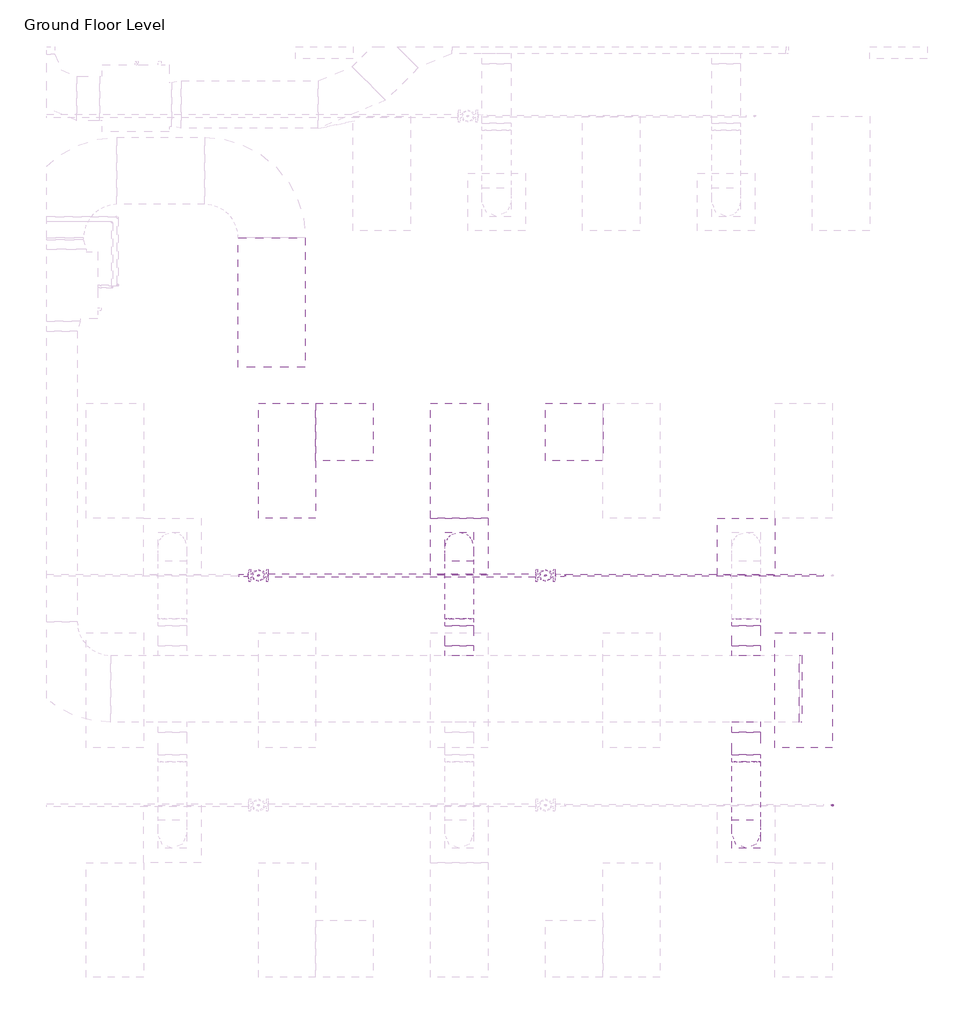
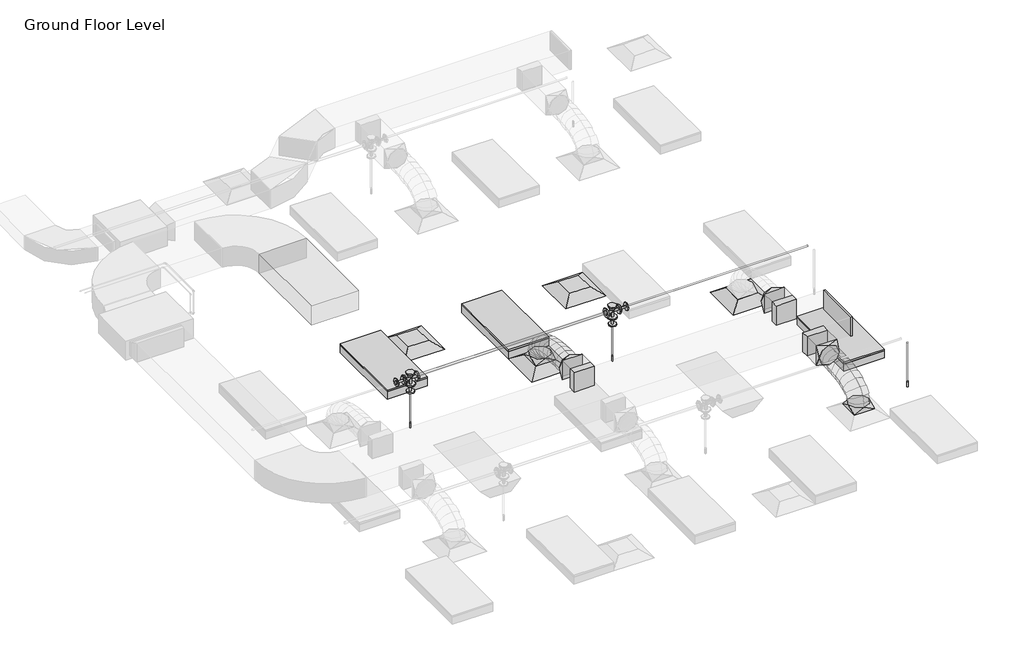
# One storey, part 32 of 68: 9 duct fittings, 6 duct segments, 6 pipe fittings, 5 pipe segments, 4 air terminals, 3 fire suppression terminals, 3 light fixtures.
"""IFC4 building model written with IfcOpenShell, lengths in millimetres."""

from ifc_helpers import new_model, si_unit, point, frame, frame_2d, origin, place, context, project, spatial, polyline, circle_curve, ellipse_curve, trimmed, segment, composite_curve, outline, extrude, transform, mapped, element, save
from ifc_brep_helpers import plane_surface, cylinder_surface, advanced_brep
from components import m_return_diffuser_600_x_600_face_300_x_300_connection_ff221211, m_rectangular_endcap_standard_7d4e98f4, m_rectangular_takeoff_standard_cb0ccb98, m_rectangular_takeoff_standard_2be5eba1, m_rectangular_to_round_transition_angle_45_degree_641efff0, m_sprinkler_dry_pendent_hosted_15_mm_dry_pendent_9bda8e11, m_troffer_light_parabolic_rectangular1_0600x1200mm_4_lamp_86473d4a, m_reducer_flanged_cs_class_150_standard_ccf252ad, m_tee_round_base_flanged_cs_class_150_standard_7e5987a1

model = new_model("IFC4")

# Units and contexts
model_context = context("Model", 3, world=origin())
ifc_project = project(units=[si_unit("LENGTHUNIT", "METRE", prefix="MILLI")], contexts=[model_context])

# Site, building, storey
site = spatial("IfcSite", under=ifc_project)
building = spatial("IfcBuilding", under=site)
storey = spatial("IfcBuildingStorey", under=building, Name="Ground Floor Level", Elevation=900.0)

# Air terminals
placement = place(None, origin())
m_return_diffuser_600_x_600_face_300_x_300_connection_shape = m_return_diffuser_600_x_600_face_300_x_300_connection_ff221211(model_context)
element("IfcAirTerminal", 1, ObjectType="M_Return Diffuser : 600 x 600 Face 300 x 300 Connection", at=placement, inside=storey, context=model_context, shape_type="MappedRepresentation", body=[
    mapped(m_return_diffuser_600_x_600_face_300_x_300_connection_shape, transform((9152.7672395, -9464.7846466, 3650.0), x_axis=(1.0, 0.0, 0.0), y_axis=(0.0, 1.0, 0.0), z_axis=(0.0, 0.0, 1.0))),
])
element("IfcAirTerminal", 2, ObjectType="M_Return Diffuser : 600 x 600 Face 300 x 300 Connection", at=placement, inside=storey, context=model_context, shape_type="MappedRepresentation", body=[
    mapped(m_return_diffuser_600_x_600_face_300_x_300_connection_shape, transform((11552.7672395, -9464.7846466, 3650.0), x_axis=(1.0, 0.0, 0.0), y_axis=(0.0, 1.0, 0.0), z_axis=(0.0, 0.0, 1.0))),
])
element("IfcAirTerminal", 3, ObjectType="M_Supply Diffuser : 600 x 600 Face 300 x 300 Connection", at=placement, inside=storey, context=model_context, shape_type="MappedRepresentation", body=[
    mapped(m_return_diffuser_600_x_600_face_300_x_300_connection_shape, transform((10352.7672395, -10664.7846466, 3650.0), x_axis=(1.0, 0.0, 0.0), y_axis=(0.0, 1.0, 0.0), z_axis=(0.0, 0.0, 1.0))),
])
element("IfcAirTerminal", 4, ObjectType="M_Supply Diffuser : 600 x 600 Face 300 x 300 Connection", at=placement, inside=storey, context=model_context, shape_type="MappedRepresentation", body=[
    mapped(m_return_diffuser_600_x_600_face_300_x_300_connection_shape, transform((13352.7672395, -10664.7846466, 3650.0), x_axis=(1.0, 0.0, 0.0), y_axis=(0.0, 1.0, 0.0), z_axis=(0.0, 0.0, 1.0))),
])

# Duct fittings
m_rectangular_endcap_standard_shape = m_rectangular_endcap_standard_7d4e98f4(model_context)
element("IfcDuctFitting", 5, ObjectType="M_Rectangular Endcap : Standard", at=placement, inside=storey, context=model_context, shape_type="MappedRepresentation", body=[
    mapped(m_rectangular_endcap_standard_shape, transform((13909.9139492, -12149.3358641, 4099.9875), x_axis=(1.0, 0.0, 0.0), y_axis=(0.0, 1.0, 0.0), z_axis=(0.0, 0.0, 1.0))),
])
m_rectangular_takeoff_standard_shape = m_rectangular_takeoff_standard_cb0ccb98(model_context)
element("IfcDuctFitting", 6, ObjectType="M_Rectangular Takeoff : Standard", at=placement, inside=storey, context=model_context, shape_type="MappedRepresentation", body=[
    mapped(m_rectangular_takeoff_standard_shape, transform((13352.7672395, -11799.3358641, 4099.9875), x_axis=(0.0, 1.0, 0.0), y_axis=(1.0, 0.0, 0.0), z_axis=(0.0, 0.0, -1.0))),
])
element("IfcDuctFitting", 7, ObjectType="M_Rectangular Takeoff : Standard", at=placement, inside=storey, context=model_context, shape_type="MappedRepresentation", body=[
    mapped(m_rectangular_takeoff_standard_shape, transform((10352.7672395, -11799.3358641, 4099.9875), x_axis=(0.0, 1.0, 0.0), y_axis=(1.0, 0.0, 0.0), z_axis=(0.0, 0.0, -1.0))),
])
m_rectangular_takeoff_standard_2_shape = m_rectangular_takeoff_standard_2be5eba1(model_context)
element("IfcDuctFitting", 8, ObjectType="M_Rectangular Takeoff : Standard", at=placement, inside=storey, context=model_context, shape_type="MappedRepresentation", body=[
    mapped(m_rectangular_takeoff_standard_2_shape, transform((13352.7672395, -12499.3358641, 4099.9875), x_axis=(0.0, -1.0, 0.0), y_axis=(-1.0, 0.0, 0.0), z_axis=(0.0, 0.0, -1.0))),
])
m_rectangular_to_round_transition_angle_45_degree_shape = m_rectangular_to_round_transition_angle_45_degree_641efff0(model_context)
element("IfcDuctFitting", 9, ObjectType="M_Rectangular to Round Transition - Angle : 45 Degree", at=placement, inside=storey, context=model_context, shape_type="MappedRepresentation", body=[
    mapped(m_rectangular_to_round_transition_angle_45_degree_shape, transform((10352.7672395, -10664.7846466, 3751.6), x_axis=(0.0, 0.0, 1.0), y_axis=(-1.0, 0.0, 0.0), z_axis=(0.0, -1.0, 0.0))),
])
element("IfcDuctFitting", 10, ObjectType="M_Rectangular to Round Transition - Angle : 45 Degree", at=placement, inside=storey, context=model_context, shape_type="MappedRepresentation", body=[
    mapped(m_rectangular_to_round_transition_angle_45_degree_shape, transform((10352.7672395, -11492.1330779, 4099.9875), x_axis=(0.0, 1.0, 0.0), y_axis=(-1.0, 0.0, 0.0), z_axis=(0.0, 0.0, 1.0))),
])
element("IfcDuctFitting", 11, ObjectType="M_Rectangular to Round Transition - Angle : 45 Degree", at=placement, inside=storey, context=model_context, shape_type="MappedRepresentation", body=[
    mapped(m_rectangular_to_round_transition_angle_45_degree_shape, transform((13352.7672395, -11492.1330779, 4099.9875), x_axis=(0.0, 1.0, 0.0), y_axis=(-1.0, 0.0, 0.0), z_axis=(0.0, 0.0, 1.0))),
])
element("IfcDuctFitting", 12, ObjectType="M_Rectangular to Round Transition - Angle : 45 Degree", at=placement, inside=storey, context=model_context, shape_type="MappedRepresentation", body=[
    mapped(m_rectangular_to_round_transition_angle_45_degree_shape, transform((13352.7672395, -13664.7846466, 3751.6), x_axis=(0.0, 0.0, 1.0), y_axis=(-1.0, 0.0, 0.0), z_axis=(0.0, -1.0, 0.0))),
])
element("IfcDuctFitting", 13, ObjectType="M_Rectangular to Round Transition - Angle : 45 Degree", at=placement, inside=storey, context=model_context, shape_type="MappedRepresentation", body=[
    mapped(m_rectangular_to_round_transition_angle_45_degree_shape, transform((13352.7672395, -12837.4362153, 4099.9875), x_axis=(0.0, -1.0, 0.0), y_axis=(1.0, 0.0, 0.0), z_axis=(0.0, 0.0, 1.0))),
])

# Duct segments
element("IfcDuctSegment", 14, ObjectType="Flex - Round", at=placement, inside=storey, context=model_context, shape_type="AdvancedBrep", body=[
    advanced_brep(
    [(10502.7672395, -10664.7846466, 3826.6), (10352.7672395, -10814.7846466, 3826.6), (10202.7672395, -10664.7846466, 3826.6), (10352.7672395, -10514.7846466, 3826.6), (10502.7672395, -10664.7846466, 3857.9382361), (10352.7672395, -10814.7846466, 3832.2943726), (10202.7672395, -10664.7846466, 3857.9382361), (10352.7672395, -10514.7846466, 3883.5820996), (10502.7672395, -10681.8009258, 3906.2508008), (10352.7672395, -10815.5381175, 3834.4336246), (10202.7672395, -10681.8009258, 3906.2508008), (10352.7672395, -10548.0637341, 3978.0679769), (10502.7672395, -10728.9857498, 3968.710741), (10352.7672395, -10833.1895095, 3857.7992917), (10202.7672395, -10728.9857498, 3968.710741), (10352.7672395, -10624.78199, 4079.6221903), (10502.7672395, -10800.5430984, 4016.0679312), (10352.7672395, -10869.4737825, 3881.8124958), (10202.7672395, -10800.5430984, 4016.0679312), (10352.7672395, -10731.6124143, 4150.3233665), (10502.7672395, -10890.6769515, 4050.4104815), (10352.7672395, -10934.2340294, 3906.4872652), (10202.7672395, -10890.6769515, 4050.4104815), (10352.7672395, -10847.1198737, 4194.3336978), (10502.7672395, -10993.591289, 4073.8265025), (10352.7672395, -11020.1487195, 3926.0353694), (10202.7672395, -10993.591289, 4073.8265025), (10352.7672395, -10967.0338584, 4221.6176356), (10502.7672395, -11103.4900905, 4088.4041045), (10352.7672395, -11118.6379564, 3939.0995418), (10202.7672395, -11103.4900905, 4088.4041045), (10352.7672395, -11088.3422246, 4237.7086671), (10502.7672395, -11214.5773359, 4096.2313978), (10352.7672395, -11222.0803018, 3946.3881695), (10202.7672395, -11214.5773359, 4096.2313978), (10352.7672395, -11207.0743701, 4246.074626), (10502.7672395, -11321.0570051, 4099.3964928), (10352.7672395, -11323.7471101, 3949.4102029), (10202.7672395, -11321.0570051, 4099.3964928), (10352.7672395, -11318.3669002, 4249.3827828), (10502.7672395, -11417.1330779, 4099.9875), (10352.7672395, -11416.2103779, 4249.9846621), (10202.7672395, -11417.1330779, 4099.9875), (10352.7672395, -11418.0557779, 3949.9903379)],
    [
        (0, 1, circle_curve(frame((10352.7672395, -10664.7846466, 3826.6), z_axis=(0.0, 0.0, -1.0), x_axis=(1.0, 0.0, 0.0)), 150.0)),
        (1, 2, circle_curve(frame((10352.7672395, -10664.7846466, 3826.6), z_axis=(0.0, 0.0, -1.0), x_axis=(1.0, 0.0, 0.0)), 150.0)),
        (2, 3, circle_curve(frame((10352.7672395, -10664.7846466, 3826.6), z_axis=(0.0, 0.0, -1.0), x_axis=(1.0, 0.0, 0.0)), 150.0)),
        (3, 0, circle_curve(frame((10352.7672395, -10664.7846466, 3826.6), z_axis=(0.0, 0.0, -1.0), x_axis=(1.0, 0.0, 0.0)), 150.0)),
        (0, 4),
        (4, 5, ellipse_curve(frame((10352.7672395, -10664.7846466, 3857.9382361), z_axis=(0.0, 0.16851424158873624, -0.9856992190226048), x_axis=(0.0, -0.9856992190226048, -0.16851424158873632)), 152.1762391, 150.0)),
        (5, 1),
        (5, 6, ellipse_curve(frame((10352.7672395, -10664.7846466, 3857.9382361), z_axis=(0.0, 0.16851424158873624, -0.9856992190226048), x_axis=(0.0, -0.9856992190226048, -0.16851424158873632)), 152.1762391, 150.0)),
        (6, 2),
        (6, 7, ellipse_curve(frame((10352.7672395, -10664.7846466, 3857.9382361), z_axis=(0.0, 0.16851424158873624, -0.9856992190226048), x_axis=(0.0, -0.9856992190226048, -0.16851424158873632)), 152.1762391, 150.0)),
        (7, 3),
        (7, 4, ellipse_curve(frame((10352.7672395, -10664.7846466, 3857.9382361), z_axis=(0.0, 0.16851424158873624, -0.9856992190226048), x_axis=(0.0, -0.9856992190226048, -0.16851424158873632)), 152.1762391, 150.0)),
        (4, 8),
        (8, 9, ellipse_curve(frame((10352.7672395, -10681.8009258, 3906.2508008), z_axis=(0.0, 0.4731028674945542, -0.8810071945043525), x_axis=(0.0, -0.8810071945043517, -0.47310286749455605)), 151.80034, 150.0)),
        (9, 5),
        (9, 10, ellipse_curve(frame((10352.7672395, -10681.8009258, 3906.2508008), z_axis=(0.0, 0.4731028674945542, -0.8810071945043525), x_axis=(0.0, -0.8810071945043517, -0.47310286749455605)), 151.80034, 150.0)),
        (10, 6),
        (10, 11, ellipse_curve(frame((10352.7672395, -10681.8009258, 3906.2508008), z_axis=(0.0, 0.4731028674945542, -0.8810071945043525), x_axis=(0.0, -0.8810071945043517, -0.47310286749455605)), 151.80034, 150.0)),
        (11, 7),
        (11, 8, ellipse_curve(frame((10352.7672395, -10681.8009258, 3906.2508008), z_axis=(0.0, 0.4731028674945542, -0.8810071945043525), x_axis=(0.0, -0.8810071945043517, -0.47310286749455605)), 151.80034, 150.0)),
        (8, 12),
        (12, 13, ellipse_curve(frame((10352.7672395, -10728.9857498, 3968.710741), z_axis=(0.0, 0.7288014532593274, -0.6847250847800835), x_axis=(0.0, -0.6847250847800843, -0.7288014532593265)), 152.1833536, 150.0)),
        (13, 9),
        (13, 14, ellipse_curve(frame((10352.7672395, -10728.9857498, 3968.710741), z_axis=(0.0, 0.7288014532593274, -0.6847250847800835), x_axis=(0.0, -0.6847250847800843, -0.7288014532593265)), 152.1833536, 150.0)),
        (14, 10),
        (14, 15, ellipse_curve(frame((10352.7672395, -10728.9857498, 3968.710741), z_axis=(0.0, 0.7288014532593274, -0.6847250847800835), x_axis=(0.0, -0.6847250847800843, -0.7288014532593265)), 152.1833536, 150.0)),
        (15, 11),
        (15, 12, ellipse_curve(frame((10352.7672395, -10728.9857498, 3968.710741), z_axis=(0.0, 0.7288014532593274, -0.6847250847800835), x_axis=(0.0, -0.6847250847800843, -0.7288014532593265)), 152.1833536, 150.0)),
        (12, 16),
        (16, 17, ellipse_curve(frame((10352.7672395, -10800.5430984, 4016.0679312), z_axis=(0.0, 0.8895974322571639, -0.45674545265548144), x_axis=(0.0, -0.45674545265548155, -0.889597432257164)), 150.9170671, 150.0)),
        (17, 13),
        (17, 18, ellipse_curve(frame((10352.7672395, -10800.5430984, 4016.0679312), z_axis=(0.0, 0.8895974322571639, -0.45674545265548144), x_axis=(0.0, -0.45674545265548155, -0.889597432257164)), 150.9170671, 150.0)),
        (18, 14),
        (18, 19, ellipse_curve(frame((10352.7672395, -10800.5430984, 4016.0679312), z_axis=(0.0, 0.8895974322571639, -0.45674545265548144), x_axis=(0.0, -0.45674545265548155, -0.889597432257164)), 150.9170671, 150.0)),
        (19, 15),
        (19, 16, ellipse_curve(frame((10352.7672395, -10800.5430984, 4016.0679312), z_axis=(0.0, 0.8895974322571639, -0.45674545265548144), x_axis=(0.0, -0.45674545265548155, -0.889597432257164)), 150.9170671, 150.0)),
        (16, 20),
        (20, 21, ellipse_curve(frame((10352.7672395, -10890.6769515, 4050.4104815), z_axis=(0.0, 0.9571277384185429, -0.28966617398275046), x_axis=(0.0, -0.2896661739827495, -0.9571277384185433)), 150.3699146, 150.0)),
        (21, 17),
        (21, 22, ellipse_curve(frame((10352.7672395, -10890.6769515, 4050.4104815), z_axis=(0.0, 0.9571277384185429, -0.28966617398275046), x_axis=(0.0, -0.2896661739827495, -0.9571277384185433)), 150.3699146, 150.0)),
        (22, 18),
        (22, 23, ellipse_curve(frame((10352.7672395, -10890.6769515, 4050.4104815), z_axis=(0.0, 0.9571277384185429, -0.28966617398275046), x_axis=(0.0, -0.2896661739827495, -0.9571277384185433)), 150.3699146, 150.0)),
        (23, 19),
        (23, 20, ellipse_curve(frame((10352.7672395, -10890.6769515, 4050.4104815), z_axis=(0.0, 0.9571277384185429, -0.28966617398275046), x_axis=(0.0, -0.2896661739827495, -0.9571277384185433)), 150.3699146, 150.0)),
        (20, 24),
        (24, 25, ellipse_curve(frame((10352.7672395, -10993.591289, 4073.8265025), z_axis=(0.0, 0.9842355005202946, -0.17686288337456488), x_axis=(0.0, -0.17686288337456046, -0.9842355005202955)), 150.1583036, 150.0)),
        (25, 21),
        (25, 26, ellipse_curve(frame((10352.7672395, -10993.591289, 4073.8265025), z_axis=(0.0, 0.9842355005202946, -0.17686288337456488), x_axis=(0.0, -0.17686288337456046, -0.9842355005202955)), 150.1583036, 150.0)),
        (26, 22),
        (26, 27, ellipse_curve(frame((10352.7672395, -10993.591289, 4073.8265025), z_axis=(0.0, 0.9842355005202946, -0.17686288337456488), x_axis=(0.0, -0.17686288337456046, -0.9842355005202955)), 150.1583036, 150.0)),
        (27, 23),
        (27, 24, ellipse_curve(frame((10352.7672395, -10993.591289, 4073.8265025), z_axis=(0.0, 0.9842355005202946, -0.17686288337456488), x_axis=(0.0, -0.17686288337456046, -0.9842355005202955)), 150.1583036, 150.0)),
        (24, 28),
        (28, 29, ellipse_curve(frame((10352.7672395, -11103.4900905, 4088.4041045), z_axis=(0.0, 0.9948927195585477, -0.10093798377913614), x_axis=(0.0, -0.1009379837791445, -0.9948927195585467)), 150.0710174, 150.0)),
        (29, 25),
        (29, 30, ellipse_curve(frame((10352.7672395, -11103.4900905, 4088.4041045), z_axis=(0.0, 0.9948927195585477, -0.10093798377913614), x_axis=(0.0, -0.1009379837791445, -0.9948927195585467)), 150.0710174, 150.0)),
        (30, 26),
        (30, 31, ellipse_curve(frame((10352.7672395, -11103.4900905, 4088.4041045), z_axis=(0.0, 0.9948927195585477, -0.10093798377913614), x_axis=(0.0, -0.1009379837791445, -0.9948927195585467)), 150.0710174, 150.0)),
        (31, 27),
        (31, 28, ellipse_curve(frame((10352.7672395, -11103.4900905, 4088.4041045), z_axis=(0.0, 0.9948927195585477, -0.10093798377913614), x_axis=(0.0, -0.1009379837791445, -0.9948927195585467)), 150.0710174, 150.0)),
        (28, 32),
        (32, 33, ellipse_curve(frame((10352.7672395, -11214.5773359, 4096.2313978), z_axis=(0.0, 0.9987487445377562, -0.05000945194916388), x_axis=(0.0, -0.05000945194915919, -0.9987487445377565)), 150.0309553, 150.0)),
        (33, 29),
        (33, 34, ellipse_curve(frame((10352.7672395, -11214.5773359, 4096.2313978), z_axis=(0.0, 0.9987487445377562, -0.05000945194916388), x_axis=(0.0, -0.05000945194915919, -0.9987487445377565)), 150.0309553, 150.0)),
        (34, 30),
        (34, 35, ellipse_curve(frame((10352.7672395, -11214.5773359, 4096.2313978), z_axis=(0.0, 0.9987487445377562, -0.05000945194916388), x_axis=(0.0, -0.05000945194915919, -0.9987487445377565)), 150.0309553, 150.0)),
        (35, 31),
        (35, 32, ellipse_curve(frame((10352.7672395, -11214.5773359, 4096.2313978), z_axis=(0.0, 0.9987487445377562, -0.05000945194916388), x_axis=(0.0, -0.05000945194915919, -0.9987487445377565)), 150.0309553, 150.0)),
        (32, 36),
        (36, 37, ellipse_curve(frame((10352.7672395, -11321.0570051, 4099.3964928), z_axis=(0.0, 0.9998391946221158, -0.017932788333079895), x_axis=(0.0, -0.017932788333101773, -0.9998391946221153)), 150.0104124, 150.0)),
        (37, 33),
        (37, 38, ellipse_curve(frame((10352.7672395, -11321.0570051, 4099.3964928), z_axis=(0.0, 0.9998391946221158, -0.017932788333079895), x_axis=(0.0, -0.017932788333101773, -0.9998391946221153)), 150.0104124, 150.0)),
        (38, 34),
        (38, 39, ellipse_curve(frame((10352.7672395, -11321.0570051, 4099.3964928), z_axis=(0.0, 0.9998391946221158, -0.017932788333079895), x_axis=(0.0, -0.017932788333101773, -0.9998391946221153)), 150.0104124, 150.0)),
        (39, 35),
        (39, 36, ellipse_curve(frame((10352.7672395, -11321.0570051, 4099.3964928), z_axis=(0.0, 0.9998391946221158, -0.017932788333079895), x_axis=(0.0, -0.017932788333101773, -0.9998391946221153)), 150.0104124, 150.0)),
        (40, 41, circle_curve(frame((10352.7672395, -11417.1330779, 4099.9875), z_axis=(0.0, -0.999981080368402, 0.0061513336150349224), x_axis=(1.0, 0.0, 0.0)), 150.0)),
        (41, 42, circle_curve(frame((10352.7672395, -11417.1330779, 4099.9875), z_axis=(0.0, -0.999981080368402, 0.0061513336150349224), x_axis=(1.0, 0.0, 0.0)), 150.0)),
        (42, 43, circle_curve(frame((10352.7672395, -11417.1330779, 4099.9875), z_axis=(0.0, -0.999981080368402, 0.0061513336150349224), x_axis=(1.0, 0.0, 0.0)), 150.0)),
        (43, 40, circle_curve(frame((10352.7672395, -11417.1330779, 4099.9875), z_axis=(0.0, -0.999981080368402, 0.0061513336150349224), x_axis=(1.0, 0.0, 0.0)), 150.0)),
        (36, 40),
        (43, 37),
        (42, 38),
        (41, 39),
    ],
    [
        plane_surface(frame((10352.7672395, -10814.7846466, 3826.6), z_axis=(0.0, 0.0, -1.0), x_axis=(1.0, 0.0, 0.0))),
        cylinder_surface(frame((10352.7672395, -10664.7846466, 3826.6), z_axis=(0.0, 0.0, -1.0), x_axis=(1.0, 0.0, 0.0)), 150.0),
        cylinder_surface(frame((10352.7672395, -10664.7846466, 3857.9382361), z_axis=(0.0, 0.3322087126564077, -0.943205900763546), x_axis=(1.0, 0.0, 0.0)), 150.0),
        cylinder_surface(frame((10352.7672395, -10681.8009258, 3906.2508008), z_axis=(0.0, 0.6027750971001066, -0.797911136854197), x_axis=(1.0, 0.0, 0.0)), 150.0),
        cylinder_surface(frame((10352.7672395, -10728.9857498, 3968.710741), z_axis=(0.0, 0.8339157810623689, -0.5518917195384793), x_axis=(1.0, 0.0, 0.0)), 150.0),
        cylinder_surface(frame((10352.7672395, -10800.5430984, 4016.0679312), z_axis=(0.0, 0.9344675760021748, -0.3560482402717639), x_axis=(1.0, 0.0, 0.0)), 150.0),
        cylinder_surface(frame((10352.7672395, -10890.6769515, 4050.4104815), z_axis=(0.0, 0.9750787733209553, -0.22185893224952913), x_axis=(1.0, 0.0, 0.0)), 150.0),
        cylinder_surface(frame((10352.7672395, -10993.591289, 4073.8265025), z_axis=(0.0, 0.9913169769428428, -0.13149392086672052), x_axis=(1.0, 0.0, 0.0)), 150.0),
        cylinder_surface(frame((10352.7672395, -11103.4900905, 4088.4041045), z_axis=(0.0, 0.9975268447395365, -0.07028651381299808), x_axis=(1.0, 0.0, 0.0)), 150.0),
        cylinder_surface(frame((10352.7672395, -11214.5773359, 4096.2313978), z_axis=(0.0, 0.999558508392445, -0.029711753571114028), x_axis=(1.0, 0.0, 0.0)), 150.0),
        plane_surface(frame((10352.7672395, -11418.0557779, 3949.9903379), z_axis=(0.0, -0.999981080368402, 0.006151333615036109), x_axis=(1.0, 0.0, 0.0))),
        cylinder_surface(frame((10352.7672395, -11321.0570051, 4099.3964928), z_axis=(0.0, 0.999981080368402, -0.0061513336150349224), x_axis=(1.0, 0.0, 0.0)), 150.0),
    ],
    [
        (0, [[1, 2, 3, 4]]),
        (1, [[-1, 5, 6, 7]]),
        (1, [[-2, -7, 8, 9]]),
        (1, [[-3, -9, 10, 11]]),
        (1, [[-4, -11, 12, -5]]),
        (2, [[-6, 13, 14, 15]]),
        (2, [[-8, -15, 16, 17]]),
        (2, [[-10, -17, 18, 19]]),
        (2, [[-12, -19, 20, -13]]),
        (3, [[-14, 21, 22, 23]]),
        (3, [[-16, -23, 24, 25]]),
        (3, [[-18, -25, 26, 27]]),
        (3, [[-20, -27, 28, -21]]),
        (4, [[-22, 29, 30, 31]]),
        (4, [[-24, -31, 32, 33]]),
        (4, [[-26, -33, 34, 35]]),
        (4, [[-28, -35, 36, -29]]),
        (5, [[-30, 37, 38, 39]]),
        (5, [[-32, -39, 40, 41]]),
        (5, [[-34, -41, 42, 43]]),
        (5, [[-36, -43, 44, -37]]),
        (6, [[-38, 45, 46, 47]]),
        (6, [[-40, -47, 48, 49]]),
        (6, [[-42, -49, 50, 51]]),
        (6, [[-44, -51, 52, -45]]),
        (7, [[-46, 53, 54, 55]]),
        (7, [[-48, -55, 56, 57]]),
        (7, [[-50, -57, 58, 59]]),
        (7, [[-52, -59, 60, -53]]),
        (8, [[-54, 61, 62, 63]]),
        (8, [[-56, -63, 64, 65]]),
        (8, [[-58, -65, 66, 67]]),
        (8, [[-60, -67, 68, -61]]),
        (9, [[-62, 69, 70, 71]]),
        (9, [[-64, -71, 72, 73]]),
        (9, [[-66, -73, 74, 75]]),
        (9, [[-68, -75, 76, -69]]),
        (10, [[77, 78, 79, 80]]),
        (11, [[-70, 81, -80, 82]]),
        (11, [[-72, -82, -79, 83]]),
        (11, [[-74, -83, -78, 84]]),
        (11, [[-76, -84, -77, -81]]),
    ],
),
])
element("IfcDuctSegment", 15, ObjectType="Flex - Round", at=placement, inside=storey, context=model_context, shape_type="AdvancedBrep", body=[
    advanced_brep(
    [(13502.7672395, -13664.7846466, 3826.6), (13352.7672395, -13814.7846466, 3826.6), (13202.7672395, -13664.7846466, 3826.6), (13352.7672395, -13514.7846466, 3826.6), (13502.7672395, -13664.7846466, 3857.9382361), (13352.7672395, -13814.7846466, 3883.5820996), (13202.7672395, -13664.7846466, 3857.9382361), (13352.7672395, -13514.7846466, 3832.2943726), (13502.7672395, -13647.7683675, 3906.2508008), (13352.7672395, -13781.5055592, 3978.0679769), (13202.7672395, -13647.7683675, 3906.2508008), (13352.7672395, -13514.0311758, 3834.4336246), (13502.7672395, -13600.5835435, 3968.710741), (13352.7672395, -13704.7873032, 4079.6221903), (13202.7672395, -13600.5835435, 3968.710741), (13352.7672395, -13496.3797837, 3857.7992917), (13502.7672395, -13529.0261948, 4016.0679312), (13352.7672395, -13597.9568789, 4150.3233665), (13202.7672395, -13529.0261948, 4016.0679312), (13352.7672395, -13460.0955107, 3881.8124958), (13502.7672395, -13438.8923417, 4050.4104815), (13352.7672395, -13482.4494195, 4194.3336978), (13202.7672395, -13438.8923417, 4050.4104815), (13352.7672395, -13395.3352638, 3906.4872652), (13502.7672395, -13335.9780043, 4073.8265025), (13352.7672395, -13362.5354348, 4221.6176356), (13202.7672395, -13335.9780043, 4073.8265025), (13352.7672395, -13309.4205737, 3926.0353694), (13502.7672395, -13226.0792027, 4088.4041045), (13352.7672395, -13241.2270687, 4237.7086671), (13202.7672395, -13226.0792027, 4088.4041045), (13352.7672395, -13210.9313368, 3939.0995418), (13502.7672395, -13114.9919573, 4096.2313978), (13352.7672395, -13122.4949231, 4246.074626), (13202.7672395, -13114.9919573, 4096.2313978), (13352.7672395, -13107.4889914, 3946.3881695), (13502.7672395, -13008.5122881, 4099.3964928), (13352.7672395, -13011.2023931, 4249.3827828), (13202.7672395, -13008.5122881, 4099.3964928), (13352.7672395, -13005.8221831, 3949.4102029), (13502.7672395, -12912.4362153, 4099.9875), (13352.7672395, -12911.5135153, 3949.9903379), (13202.7672395, -12912.4362153, 4099.9875), (13352.7672395, -12913.3589154, 4249.9846621)],
    [
        (0, 1, circle_curve(frame((13352.7672395, -13664.7846466, 3826.6), z_axis=(0.0, 0.0, -1.0), x_axis=(1.0, 0.0, 0.0)), 150.0)),
        (1, 2, circle_curve(frame((13352.7672395, -13664.7846466, 3826.6), z_axis=(0.0, 0.0, -1.0), x_axis=(1.0, 0.0, 0.0)), 150.0)),
        (2, 3, circle_curve(frame((13352.7672395, -13664.7846466, 3826.6), z_axis=(0.0, 0.0, -1.0), x_axis=(1.0, 0.0, 0.0)), 150.0)),
        (3, 0, circle_curve(frame((13352.7672395, -13664.7846466, 3826.6), z_axis=(0.0, 0.0, -1.0), x_axis=(1.0, 0.0, 0.0)), 150.0)),
        (0, 4),
        (4, 5, ellipse_curve(frame((13352.7672395, -13664.7846466, 3857.9382361), z_axis=(0.0, -0.16851424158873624, -0.9856992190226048), x_axis=(0.0, 0.9856992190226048, -0.16851424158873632)), 152.1762391, 150.0)),
        (5, 1),
        (5, 6, ellipse_curve(frame((13352.7672395, -13664.7846466, 3857.9382361), z_axis=(0.0, -0.16851424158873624, -0.9856992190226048), x_axis=(0.0, 0.9856992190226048, -0.16851424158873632)), 152.1762391, 150.0)),
        (6, 2),
        (6, 7, ellipse_curve(frame((13352.7672395, -13664.7846466, 3857.9382361), z_axis=(0.0, -0.16851424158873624, -0.9856992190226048), x_axis=(0.0, 0.9856992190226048, -0.16851424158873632)), 152.1762391, 150.0)),
        (7, 3),
        (7, 4, ellipse_curve(frame((13352.7672395, -13664.7846466, 3857.9382361), z_axis=(0.0, -0.16851424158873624, -0.9856992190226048), x_axis=(0.0, 0.9856992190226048, -0.16851424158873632)), 152.1762391, 150.0)),
        (4, 8),
        (8, 9, ellipse_curve(frame((13352.7672395, -13647.7683675, 3906.2508008), z_axis=(0.0, -0.4731028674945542, -0.8810071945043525), x_axis=(0.0, 0.8810071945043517, -0.47310286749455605)), 151.80034, 150.0)),
        (9, 5),
        (9, 10, ellipse_curve(frame((13352.7672395, -13647.7683675, 3906.2508008), z_axis=(0.0, -0.4731028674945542, -0.8810071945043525), x_axis=(0.0, 0.8810071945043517, -0.47310286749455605)), 151.80034, 150.0)),
        (10, 6),
        (10, 11, ellipse_curve(frame((13352.7672395, -13647.7683675, 3906.2508008), z_axis=(0.0, -0.4731028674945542, -0.8810071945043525), x_axis=(0.0, 0.8810071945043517, -0.47310286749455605)), 151.80034, 150.0)),
        (11, 7),
        (11, 8, ellipse_curve(frame((13352.7672395, -13647.7683675, 3906.2508008), z_axis=(0.0, -0.4731028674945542, -0.8810071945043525), x_axis=(0.0, 0.8810071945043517, -0.47310286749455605)), 151.80034, 150.0)),
        (8, 12),
        (12, 13, ellipse_curve(frame((13352.7672395, -13600.5835435, 3968.710741), z_axis=(0.0, -0.728801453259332, -0.6847250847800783), x_axis=(0.0, 0.6847250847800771, -0.7288014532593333)), 152.1833536, 150.0)),
        (13, 9),
        (13, 14, ellipse_curve(frame((13352.7672395, -13600.5835435, 3968.710741), z_axis=(0.0, -0.728801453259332, -0.6847250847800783), x_axis=(0.0, 0.6847250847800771, -0.7288014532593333)), 152.1833536, 150.0)),
        (14, 10),
        (14, 15, ellipse_curve(frame((13352.7672395, -13600.5835435, 3968.710741), z_axis=(0.0, -0.728801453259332, -0.6847250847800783), x_axis=(0.0, 0.6847250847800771, -0.7288014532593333)), 152.1833536, 150.0)),
        (15, 11),
        (15, 12, ellipse_curve(frame((13352.7672395, -13600.5835435, 3968.710741), z_axis=(0.0, -0.728801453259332, -0.6847250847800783), x_axis=(0.0, 0.6847250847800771, -0.7288014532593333)), 152.1833536, 150.0)),
        (12, 16),
        (16, 17, ellipse_curve(frame((13352.7672395, -13529.0261948, 4016.0679312), z_axis=(0.0, -0.889597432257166, -0.45674545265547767), x_axis=(0.0, 0.4567454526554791, -0.8895974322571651)), 150.9170671, 150.0)),
        (17, 13),
        (17, 18, ellipse_curve(frame((13352.7672395, -13529.0261948, 4016.0679312), z_axis=(0.0, -0.889597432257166, -0.45674545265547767), x_axis=(0.0, 0.4567454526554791, -0.8895974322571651)), 150.9170671, 150.0)),
        (18, 14),
        (18, 19, ellipse_curve(frame((13352.7672395, -13529.0261948, 4016.0679312), z_axis=(0.0, -0.889597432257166, -0.45674545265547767), x_axis=(0.0, 0.4567454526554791, -0.8895974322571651)), 150.9170671, 150.0)),
        (19, 15),
        (19, 16, ellipse_curve(frame((13352.7672395, -13529.0261948, 4016.0679312), z_axis=(0.0, -0.889597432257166, -0.45674545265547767), x_axis=(0.0, 0.4567454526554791, -0.8895974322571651)), 150.9170671, 150.0)),
        (16, 20),
        (20, 21, ellipse_curve(frame((13352.7672395, -13438.8923417, 4050.4104815), z_axis=(0.0, -0.9571277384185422, -0.28966617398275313), x_axis=(0.0, 0.28966617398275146, -0.9571277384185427)), 150.3699146, 150.0)),
        (21, 17),
        (21, 22, ellipse_curve(frame((13352.7672395, -13438.8923417, 4050.4104815), z_axis=(0.0, -0.9571277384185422, -0.28966617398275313), x_axis=(0.0, 0.28966617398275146, -0.9571277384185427)), 150.3699146, 150.0)),
        (22, 18),
        (22, 23, ellipse_curve(frame((13352.7672395, -13438.8923417, 4050.4104815), z_axis=(0.0, -0.9571277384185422, -0.28966617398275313), x_axis=(0.0, 0.28966617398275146, -0.9571277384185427)), 150.3699146, 150.0)),
        (23, 19),
        (23, 20, ellipse_curve(frame((13352.7672395, -13438.8923417, 4050.4104815), z_axis=(0.0, -0.9571277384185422, -0.28966617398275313), x_axis=(0.0, 0.28966617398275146, -0.9571277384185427)), 150.3699146, 150.0)),
        (20, 24),
        (24, 25, ellipse_curve(frame((13352.7672395, -13335.9780043, 4073.8265025), z_axis=(0.0, -0.9842355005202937, -0.17686288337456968), x_axis=(0.0, 0.17686288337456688, -0.9842355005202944)), 150.1583036, 150.0)),
        (25, 21),
        (25, 26, ellipse_curve(frame((13352.7672395, -13335.9780043, 4073.8265025), z_axis=(0.0, -0.9842355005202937, -0.17686288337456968), x_axis=(0.0, 0.17686288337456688, -0.9842355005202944)), 150.1583036, 150.0)),
        (26, 22),
        (26, 27, ellipse_curve(frame((13352.7672395, -13335.9780043, 4073.8265025), z_axis=(0.0, -0.9842355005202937, -0.17686288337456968), x_axis=(0.0, 0.17686288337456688, -0.9842355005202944)), 150.1583036, 150.0)),
        (27, 23),
        (27, 24, ellipse_curve(frame((13352.7672395, -13335.9780043, 4073.8265025), z_axis=(0.0, -0.9842355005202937, -0.17686288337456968), x_axis=(0.0, 0.17686288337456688, -0.9842355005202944)), 150.1583036, 150.0)),
        (24, 28),
        (28, 29, ellipse_curve(frame((13352.7672395, -13226.0792027, 4088.4041045), z_axis=(0.0, -0.9948927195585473, -0.10093798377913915), x_axis=(0.0, 0.10093798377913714, -0.9948927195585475)), 150.0710174, 150.0)),
        (29, 25),
        (29, 30, ellipse_curve(frame((13352.7672395, -13226.0792027, 4088.4041045), z_axis=(0.0, -0.9948927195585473, -0.10093798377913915), x_axis=(0.0, 0.10093798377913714, -0.9948927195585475)), 150.0710174, 150.0)),
        (30, 26),
        (30, 31, ellipse_curve(frame((13352.7672395, -13226.0792027, 4088.4041045), z_axis=(0.0, -0.9948927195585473, -0.10093798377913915), x_axis=(0.0, 0.10093798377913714, -0.9948927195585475)), 150.0710174, 150.0)),
        (31, 27),
        (31, 28, ellipse_curve(frame((13352.7672395, -13226.0792027, 4088.4041045), z_axis=(0.0, -0.9948927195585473, -0.10093798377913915), x_axis=(0.0, 0.10093798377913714, -0.9948927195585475)), 150.0710174, 150.0)),
        (28, 32),
        (32, 33, ellipse_curve(frame((13352.7672395, -13114.9919573, 4096.2313978), z_axis=(0.0, -0.9987487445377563, -0.050009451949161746), x_axis=(0.0, 0.05000945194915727, -0.9987487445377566)), 150.0309553, 150.0)),
        (33, 29),
        (33, 34, ellipse_curve(frame((13352.7672395, -13114.9919573, 4096.2313978), z_axis=(0.0, -0.9987487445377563, -0.050009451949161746), x_axis=(0.0, 0.05000945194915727, -0.9987487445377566)), 150.0309553, 150.0)),
        (34, 30),
        (34, 35, ellipse_curve(frame((13352.7672395, -13114.9919573, 4096.2313978), z_axis=(0.0, -0.9987487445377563, -0.050009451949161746), x_axis=(0.0, 0.05000945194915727, -0.9987487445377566)), 150.0309553, 150.0)),
        (35, 31),
        (35, 32, ellipse_curve(frame((13352.7672395, -13114.9919573, 4096.2313978), z_axis=(0.0, -0.9987487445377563, -0.050009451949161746), x_axis=(0.0, 0.05000945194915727, -0.9987487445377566)), 150.0309553, 150.0)),
        (32, 36),
        (36, 37, ellipse_curve(frame((13352.7672395, -13008.5122881, 4099.3964928), z_axis=(0.0, -0.9998391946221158, -0.017932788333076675), x_axis=(0.0, 0.01793278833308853, -0.9998391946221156)), 150.0104124, 150.0)),
        (37, 33),
        (37, 38, ellipse_curve(frame((13352.7672395, -13008.5122881, 4099.3964928), z_axis=(0.0, -0.9998391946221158, -0.017932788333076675), x_axis=(0.0, 0.01793278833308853, -0.9998391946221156)), 150.0104124, 150.0)),
        (38, 34),
        (38, 39, ellipse_curve(frame((13352.7672395, -13008.5122881, 4099.3964928), z_axis=(0.0, -0.9998391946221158, -0.017932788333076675), x_axis=(0.0, 0.01793278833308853, -0.9998391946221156)), 150.0104124, 150.0)),
        (39, 35),
        (39, 36, ellipse_curve(frame((13352.7672395, -13008.5122881, 4099.3964928), z_axis=(0.0, -0.9998391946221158, -0.017932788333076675), x_axis=(0.0, 0.01793278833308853, -0.9998391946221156)), 150.0104124, 150.0)),
        (40, 41, circle_curve(frame((13352.7672395, -12912.4362153, 4099.9875), z_axis=(0.0, 0.9999810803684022, 0.0061513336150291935), x_axis=(1.0, 0.0, 0.0)), 150.0)),
        (41, 42, circle_curve(frame((13352.7672395, -12912.4362153, 4099.9875), z_axis=(0.0, 0.9999810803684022, 0.0061513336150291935), x_axis=(1.0, 0.0, 0.0)), 150.0)),
        (42, 43, circle_curve(frame((13352.7672395, -12912.4362153, 4099.9875), z_axis=(0.0, 0.9999810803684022, 0.0061513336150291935), x_axis=(1.0, 0.0, 0.0)), 150.0)),
        (43, 40, circle_curve(frame((13352.7672395, -12912.4362153, 4099.9875), z_axis=(0.0, 0.9999810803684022, 0.0061513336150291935), x_axis=(1.0, 0.0, 0.0)), 150.0)),
        (36, 40),
        (43, 37),
        (42, 38),
        (41, 39),
    ],
    [
        plane_surface(frame((13352.7672395, -13814.7846466, 3826.6), z_axis=(0.0, 0.0, -1.0), x_axis=(1.0, 0.0, 0.0))),
        cylinder_surface(frame((13352.7672395, -13664.7846466, 3826.6), z_axis=(0.0, 0.0, -1.0), x_axis=(1.0, 0.0, 0.0)), 150.0),
        cylinder_surface(frame((13352.7672395, -13664.7846466, 3857.9382361), z_axis=(0.0, -0.3322087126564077, -0.943205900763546), x_axis=(1.0, 0.0, 0.0)), 150.0),
        cylinder_surface(frame((13352.7672395, -13647.7683675, 3906.2508008), z_axis=(0.0, -0.6027750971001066, -0.797911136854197), x_axis=(1.0, 0.0, 0.0)), 150.0),
        cylinder_surface(frame((13352.7672395, -13600.5835435, 3968.710741), z_axis=(0.0, -0.8339157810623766, -0.5518917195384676), x_axis=(1.0, 0.0, 0.0)), 150.0),
        cylinder_surface(frame((13352.7672395, -13529.0261948, 4016.0679312), z_axis=(0.0, -0.9344675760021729, -0.3560482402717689), x_axis=(1.0, 0.0, 0.0)), 150.0),
        cylinder_surface(frame((13352.7672395, -13438.8923417, 4050.4104815), z_axis=(0.0, -0.9750787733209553, -0.2218589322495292), x_axis=(1.0, 0.0, 0.0)), 150.0),
        cylinder_surface(frame((13352.7672395, -13335.9780043, 4073.8265025), z_axis=(0.0, -0.9913169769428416, -0.13149392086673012), x_axis=(1.0, 0.0, 0.0)), 150.0),
        cylinder_surface(frame((13352.7672395, -13226.0792027, 4088.4041045), z_axis=(0.0, -0.9975268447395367, -0.07028651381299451), x_axis=(1.0, 0.0, 0.0)), 150.0),
        cylinder_surface(frame((13352.7672395, -13114.9919573, 4096.2313978), z_axis=(0.0, -0.999558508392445, -0.02971175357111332), x_axis=(1.0, 0.0, 0.0)), 150.0),
        plane_surface(frame((13352.7672395, -12913.3589154, 4249.9846621), z_axis=(0.0, 0.9999810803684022, 0.006151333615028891), x_axis=(1.0, 0.0, 0.0))),
        cylinder_surface(frame((13352.7672395, -13008.5122881, 4099.3964928), z_axis=(0.0, -0.9999810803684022, -0.0061513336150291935), x_axis=(1.0, 0.0, 0.0)), 150.0),
    ],
    [
        (0, [[1, 2, 3, 4]]),
        (1, [[-1, 5, 6, 7]]),
        (1, [[-2, -7, 8, 9]]),
        (1, [[-3, -9, 10, 11]]),
        (1, [[-4, -11, 12, -5]]),
        (2, [[-6, 13, 14, 15]]),
        (2, [[-8, -15, 16, 17]]),
        (2, [[-10, -17, 18, 19]]),
        (2, [[-12, -19, 20, -13]]),
        (3, [[-14, 21, 22, 23]]),
        (3, [[-16, -23, 24, 25]]),
        (3, [[-18, -25, 26, 27]]),
        (3, [[-20, -27, 28, -21]]),
        (4, [[-22, 29, 30, 31]]),
        (4, [[-24, -31, 32, 33]]),
        (4, [[-26, -33, 34, 35]]),
        (4, [[-28, -35, 36, -29]]),
        (5, [[-30, 37, 38, 39]]),
        (5, [[-32, -39, 40, 41]]),
        (5, [[-34, -41, 42, 43]]),
        (5, [[-36, -43, 44, -37]]),
        (6, [[-38, 45, 46, 47]]),
        (6, [[-40, -47, 48, 49]]),
        (6, [[-42, -49, 50, 51]]),
        (6, [[-44, -51, 52, -45]]),
        (7, [[-46, 53, 54, 55]]),
        (7, [[-48, -55, 56, 57]]),
        (7, [[-50, -57, 58, 59]]),
        (7, [[-52, -59, 60, -53]]),
        (8, [[-54, 61, 62, 63]]),
        (8, [[-56, -63, 64, 65]]),
        (8, [[-58, -65, 66, 67]]),
        (8, [[-60, -67, 68, -61]]),
        (9, [[-62, 69, 70, 71]]),
        (9, [[-64, -71, 72, 73]]),
        (9, [[-66, -73, 74, 75]]),
        (9, [[-68, -75, 76, -69]]),
        (10, [[77, 78, 79, 80]]),
        (11, [[-70, 81, -80, 82]]),
        (11, [[-72, -82, -79, 83]]),
        (11, [[-74, -83, -78, 84]]),
        (11, [[-76, -84, -77, -81]]),
    ],
),
])
element("IfcDuctSegment", 16, ObjectType="Radius Elbows / Taps", at=placement, inside=storey, context=model_context, shape_type="SweptSolid", body=[
    extrude(outline(polyline([(8043.4139492, -7438.5358641), (8743.4139492, -7438.5358641), (8743.4139492, -8789.6566353), (8043.4139492, -8789.6566353), (8043.4139492, -7438.5358641)])), frame((0.0, 0.0, 3925.2875), z_axis=(0.0, 0.0, 1.0), x_axis=(1.0, 0.0, 0.0)), (0.0, 0.0, 1.0), 300.0),
])
element("IfcDuctSegment", 17, ObjectType="Radius Elbows / Taps", at=placement, inside=storey, context=model_context, shape_type="SweptSolid", body=[
    extrude(outline(polyline([(13202.7672395, -12600.9358641), (13502.7672395, -12600.9358641), (13502.7672395, -12837.4362153), (13202.7672395, -12837.4362153), (13202.7672395, -12600.9358641)])), frame((0.0, 0.0, 3949.9875), z_axis=(0.0, 0.0, 1.0), x_axis=(1.0, 0.0, 0.0)), (0.0, 0.0, 1.0), 300.0),
])
element("IfcDuctSegment", 18, ObjectType="Radius Elbows / Taps", at=placement, inside=storey, context=model_context, shape_type="SweptSolid", body=[
    extrude(outline(polyline([(13502.7672395, -11697.7358641), (13202.7672395, -11697.7358641), (13202.7672395, -11492.1330779), (13502.7672395, -11492.1330779), (13502.7672395, -11697.7358641)])), frame((0.0, 0.0, 3949.9875), z_axis=(0.0, 0.0, 1.0), x_axis=(1.0, 0.0, 0.0)), (0.0, 0.0, 1.0), 300.0),
])
element("IfcDuctSegment", 19, ObjectType="Radius Elbows / Taps", at=placement, inside=storey, context=model_context, shape_type="SweptSolid", body=[
    extrude(outline(polyline([(10502.7672395, -11697.7358641), (10202.7672395, -11697.7358641), (10202.7672395, -11492.1330779), (10502.7672395, -11492.1330779), (10502.7672395, -11697.7358641)])), frame((0.0, 0.0, 3949.9875), z_axis=(0.0, 0.0, 1.0), x_axis=(1.0, 0.0, 0.0)), (0.0, 0.0, 1.0), 300.0),
])

# Fire suppression terminals
m_sprinkler_dry_pendent_hosted_15_mm_dry_pendent_shape = m_sprinkler_dry_pendent_hosted_15_mm_dry_pendent_9bda8e11(model_context)
element("IfcFireSuppressionTerminal", 20, ObjectType="M_Sprinkler - Dry - Pendent - Hosted : 15 mm Dry Pendent", at=placement, inside=storey, context=model_context, shape_type="MappedRepresentation", body=[
    mapped(m_sprinkler_dry_pendent_hosted_15_mm_dry_pendent_shape, transform((8252.7672395, -10964.7846466, 3650.0), x_axis=(1.0, 0.0, 0.0), y_axis=(0.0, -1.0, 0.0), z_axis=(0.0, 0.0, -1.0))),
])
element("IfcFireSuppressionTerminal", 21, ObjectType="M_Sprinkler - Dry - Pendent - Hosted : 15 mm Dry Pendent", at=placement, inside=storey, context=model_context, shape_type="MappedRepresentation", body=[
    mapped(m_sprinkler_dry_pendent_hosted_15_mm_dry_pendent_shape, transform((11252.7672395, -10964.7846466, 3650.0), x_axis=(1.0, 0.0, 0.0), y_axis=(0.0, -1.0, 0.0), z_axis=(0.0, 0.0, -1.0))),
])
element("IfcFireSuppressionTerminal", 22, ObjectType="M_Sprinkler - Dry - Pendent - Hosted : 15 mm Dry Pendent", at=placement, inside=storey, context=model_context, shape_type="MappedRepresentation", body=[
    mapped(m_sprinkler_dry_pendent_hosted_15_mm_dry_pendent_shape, transform((14252.7672395, -13364.7846466, 3650.0), x_axis=(1.0, 0.0, 0.0), y_axis=(0.0, -1.0, 0.0), z_axis=(0.0, 0.0, -1.0))),
])

# Light fixtures
m_troffer_light_parabolic_rectangular1_0600x1200mm_4_lamp_shape = m_troffer_light_parabolic_rectangular1_0600x1200mm_4_lamp_86473d4a(model_context)
element("IfcLightFixture", 23, ObjectType="M_Troffer Light - Parabolic Rectangular1 : 0600x1200mm(4 Lamp) - 277V 2", at=placement, inside=storey, context=model_context, shape_type="MappedRepresentation", body=[
    mapped(m_troffer_light_parabolic_rectangular1_0600x1200mm_4_lamp_shape, transform((8493.3013074, -9746.081145, 3650.0), x_axis=(0.0, 1.0, 0.0), y_axis=(-1.0, 0.0, 0.0), z_axis=(0.0, 0.0, 1.0))),
])
element("IfcLightFixture", 24, ObjectType="M_Troffer Light - Parabolic Rectangular1 : 0600x1200mm(4 Lamp) - 277V 2", at=placement, inside=storey, context=model_context, shape_type="MappedRepresentation", body=[
    mapped(m_troffer_light_parabolic_rectangular1_0600x1200mm_4_lamp_shape, transform((10293.3013074, -9746.081145, 3650.0), x_axis=(0.0, 1.0, 0.0), y_axis=(-1.0, 0.0, 0.0), z_axis=(0.0, 0.0, 1.0))),
])
element("IfcLightFixture", 25, ObjectType="M_Troffer Light - Parabolic Rectangular1 : 0600x1200mm(4 Lamp) - 277V 2", at=placement, inside=storey, context=model_context, shape_type="MappedRepresentation", body=[
    mapped(m_troffer_light_parabolic_rectangular1_0600x1200mm_4_lamp_shape, transform((13893.3013074, -12146.081145, 3650.0), x_axis=(0.0, 1.0, 0.0), y_axis=(-1.0, 0.0, 0.0), z_axis=(0.0, 0.0, 1.0))),
])

# Pipe fittings
m_reducer_flanged_cs_class_150_standard_shape = m_reducer_flanged_cs_class_150_standard_ccf252ad(model_context)
element("IfcPipeFitting", 26, ObjectType="M_Reducer - Flanged - CS - Class 150 : Standard", at=placement, inside=storey, context=model_context, shape_type="MappedRepresentation", body=[
    mapped(m_reducer_flanged_cs_class_150_standard_shape, transform((11353.4758332, -10964.7846466, 4347.5), x_axis=(1.0, 0.0, 0.0), y_axis=(0.0, 0.0, 1.0), z_axis=(0.0, -1.0, 0.0))),
])
element("IfcPipeFitting", 27, ObjectType="M_Reducer - Flanged - CS - Class 150 : Standard", at=placement, inside=storey, context=model_context, shape_type="MappedRepresentation", body=[
    mapped(m_reducer_flanged_cs_class_150_standard_shape, transform((11252.7672395, -10964.7846466, 4246.7914062), x_axis=(0.0, 0.0, -1.0), y_axis=(-1.0, 0.0, 0.0), z_axis=(0.0, 1.0, 0.0))),
])
element("IfcPipeFitting", 28, ObjectType="M_Reducer - Flanged - CS - Class 150 : Standard", at=placement, inside=storey, context=model_context, shape_type="MappedRepresentation", body=[
    mapped(m_reducer_flanged_cs_class_150_standard_shape, transform((8152.0586457, -10964.7846466, 4347.5), x_axis=(-1.0, 0.0, 0.0), y_axis=(0.0, 0.0, -1.0), z_axis=(0.0, -1.0, 0.0))),
])
element("IfcPipeFitting", 29, ObjectType="M_Reducer - Flanged - CS - Class 150 : Standard", at=placement, inside=storey, context=model_context, shape_type="MappedRepresentation", body=[
    mapped(m_reducer_flanged_cs_class_150_standard_shape, transform((8252.7672395, -10964.7846466, 4246.7914062), x_axis=(0.0, 0.0, -1.0), y_axis=(-1.0, 0.0, 0.0), z_axis=(0.0, 1.0, 0.0))),
])
m_tee_round_base_flanged_cs_class_150_standard_shape = m_tee_round_base_flanged_cs_class_150_standard_7e5987a1(model_context)
element("IfcPipeFitting", 30, ObjectType="M_Tee Round Base - Flanged - CS - Class 150 : Standard", at=placement, inside=storey, context=model_context, shape_type="MappedRepresentation", body=[
    mapped(m_tee_round_base_flanged_cs_class_150_standard_shape, transform((11252.7672395, -10964.7846466, 4347.5), x_axis=(1.0, 0.0, 0.0), y_axis=(0.0, 0.0, 1.0), z_axis=(0.0, -1.0, 0.0))),
])
element("IfcPipeFitting", 31, ObjectType="M_Tee Round Base - Flanged - CS - Class 150 : Standard", at=placement, inside=storey, context=model_context, shape_type="MappedRepresentation", body=[
    mapped(m_tee_round_base_flanged_cs_class_150_standard_shape, transform((8252.7672395, -10964.7846466, 4347.5), x_axis=(1.0, 0.0, 0.0), y_axis=(0.0, 0.0, 1.0), z_axis=(0.0, -1.0, 0.0))),
])

# Pipe segments
element("IfcPipeSegment", 32, ObjectType="Steel flanged", at=placement, inside=storey, context=model_context, shape_type="SweptSolid", body=[
    extrude(outline(composite_curve([segment(trimmed(circle_curve(frame_2d((14252.7672395, -13364.7846466)), 10.668), [point((14242.0992395, -13364.7846466))], [point((14252.7672395, -13354.1166466))], False, "CARTESIAN"), True, "CONTINUOUS"), segment(trimmed(circle_curve(frame_2d((14252.7672395, -13364.7846466)), 10.668), [point((14252.7672395, -13354.1166466))], [point((14263.4352395, -13364.7846466))], False, "CARTESIAN"), True, "CONTINUOUS"), segment(trimmed(circle_curve(frame_2d((14252.7672395, -13364.7846466)), 10.668), [point((14263.4352395, -13364.7846466))], [point((14252.7672395, -13375.4526466))], False, "CARTESIAN"), True, "CONTINUOUS"), segment(trimmed(circle_curve(frame_2d((14252.7672395, -13364.7846466)), 10.668), [point((14252.7672395, -13375.4526466))], [point((14242.0992395, -13364.7846466))], False, "CARTESIAN"), True, "CONTINUOUS")], self_intersect=False)), frame((0.0, 0.0, 3650.0), z_axis=(0.0, 0.0, 1.0), x_axis=(1.0, 0.0, 0.0)), (0.0, 0.0, 1.0), 604.4914062),
])
element("IfcPipeSegment", 33, ObjectType="Steel flanged", at=placement, inside=storey, context=model_context, shape_type="SweptSolid", body=[
    extrude(outline(composite_curve([segment(trimmed(circle_curve(frame_2d((11252.7672395, -10964.7846466)), 10.668), [point((11242.0992395, -10964.7846466))], [point((11252.7672395, -10954.1166466))], False, "CARTESIAN"), True, "CONTINUOUS"), segment(trimmed(circle_curve(frame_2d((11252.7672395, -10964.7846466)), 10.668), [point((11252.7672395, -10954.1166466))], [point((11263.4352395, -10964.7846466))], False, "CARTESIAN"), True, "CONTINUOUS"), segment(trimmed(circle_curve(frame_2d((11252.7672395, -10964.7846466)), 10.668), [point((11263.4352395, -10964.7846466))], [point((11252.7672395, -10975.4526466))], False, "CARTESIAN"), True, "CONTINUOUS"), segment(trimmed(circle_curve(frame_2d((11252.7672395, -10964.7846466)), 10.668), [point((11252.7672395, -10975.4526466))], [point((11242.0992395, -10964.7846466))], False, "CARTESIAN"), True, "CONTINUOUS")], self_intersect=False)), frame((0.0, 0.0, 3650.0), z_axis=(0.0, 0.0, 1.0), x_axis=(1.0, 0.0, 0.0)), (0.0, 0.0, 1.0), 482.7914062),
])
element("IfcPipeSegment", 34, ObjectType="Steel flanged", at=placement, inside=storey, context=model_context, shape_type="SweptSolid", body=[
    extrude(outline(composite_curve([segment(trimmed(circle_curve(frame_2d((-10964.7846466, 4347.5)), 10.668), [point((-10954.1166466, 4347.5))], [point((-10964.7846466, 4336.832))], False, "CARTESIAN"), True, "CONTINUOUS"), segment(trimmed(circle_curve(frame_2d((-10964.7846466, 4347.5)), 10.668), [point((-10964.7846466, 4336.832))], [point((-10975.4526466, 4347.5))], False, "CARTESIAN"), True, "CONTINUOUS"), segment(trimmed(circle_curve(frame_2d((-10964.7846466, 4347.5)), 10.668), [point((-10975.4526466, 4347.5))], [point((-10964.7846466, 4358.168))], False, "CARTESIAN"), True, "CONTINUOUS"), segment(trimmed(circle_curve(frame_2d((-10964.7846466, 4347.5)), 10.668), [point((-10964.7846466, 4358.168))], [point((-10954.1166466, 4347.5))], False, "CARTESIAN"), True, "CONTINUOUS")], self_intersect=False)), frame((11467.4758332, 0.0, 0.0), z_axis=(1.0, 0.0, 0.0), x_axis=(0.0, 1.0, 0.0)), (0.0, 0.0, 1.0), 2692.2828125),
])
element("IfcPipeSegment", 35, ObjectType="Steel flanged", at=placement, inside=storey, context=model_context, shape_type="SweptSolid", body=[
    extrude(outline(composite_curve([segment(trimmed(circle_curve(frame_2d((8252.7672395, -10964.7846466)), 10.668), [point((8242.0992395, -10964.7846466))], [point((8252.7672395, -10954.1166466))], False, "CARTESIAN"), True, "CONTINUOUS"), segment(trimmed(circle_curve(frame_2d((8252.7672395, -10964.7846466)), 10.668), [point((8252.7672395, -10954.1166466))], [point((8263.4352395, -10964.7846466))], False, "CARTESIAN"), True, "CONTINUOUS"), segment(trimmed(circle_curve(frame_2d((8252.7672395, -10964.7846466)), 10.668), [point((8263.4352395, -10964.7846466))], [point((8252.7672395, -10975.4526466))], False, "CARTESIAN"), True, "CONTINUOUS"), segment(trimmed(circle_curve(frame_2d((8252.7672395, -10964.7846466)), 10.668), [point((8252.7672395, -10975.4526466))], [point((8242.0992395, -10964.7846466))], False, "CARTESIAN"), True, "CONTINUOUS")], self_intersect=False)), frame((0.0, 0.0, 3650.0), z_axis=(0.0, 0.0, 1.0), x_axis=(1.0, 0.0, 0.0)), (0.0, 0.0, 1.0), 482.7914062),
])
element("IfcPipeSegment", 36, ObjectType="Steel flanged", at=placement, inside=storey, context=model_context, shape_type="SweptSolid", body=[
    extrude(outline(composite_curve([segment(trimmed(circle_curve(frame_2d((-10964.7846466, 4347.5)), 16.7005), [point((-10948.0841466, 4347.5))], [point((-10964.7846466, 4330.7995))], False, "CARTESIAN"), True, "CONTINUOUS"), segment(trimmed(circle_curve(frame_2d((-10964.7846466, 4347.5)), 16.7005), [point((-10964.7846466, 4330.7995))], [point((-10981.4851466, 4347.5))], False, "CARTESIAN"), True, "CONTINUOUS"), segment(trimmed(circle_curve(frame_2d((-10964.7846466, 4347.5)), 16.7005), [point((-10981.4851466, 4347.5))], [point((-10964.7846466, 4364.2005))], False, "CARTESIAN"), True, "CONTINUOUS"), segment(trimmed(circle_curve(frame_2d((-10964.7846466, 4347.5)), 16.7005), [point((-10964.7846466, 4364.2005))], [point((-10948.0841466, 4347.5))], False, "CARTESIAN"), True, "CONTINUOUS")], self_intersect=False)), frame((8353.4758332, 0.0, 0.0), z_axis=(1.0, 0.0, 0.0), x_axis=(0.0, 1.0, 0.0)), (0.0, 0.0, 1.0), 2798.5828125),
])

save(model, "model.ifc")
